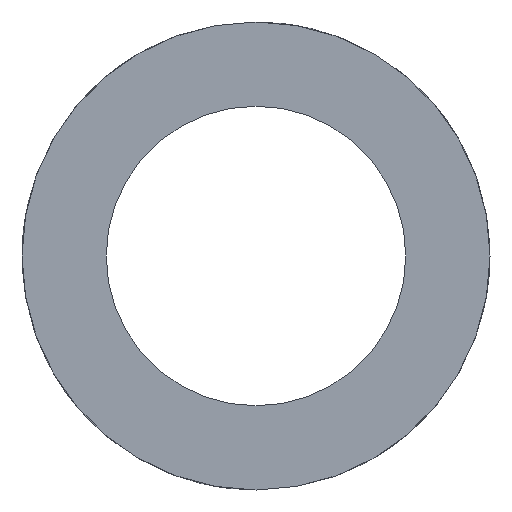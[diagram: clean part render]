
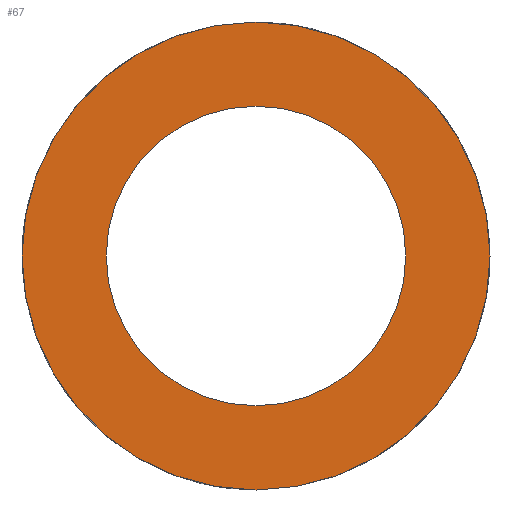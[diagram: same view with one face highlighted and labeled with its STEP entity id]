
A CAD part, front view. The second image highlights one B-rep face of the part: STEP entity #67.
In plain terms, the highlighted planar face has unit normal (0, -1, 0).
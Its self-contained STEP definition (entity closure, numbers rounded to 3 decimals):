
#11 = PLANE ( 'NONE',  #922 ) ;
#67 = ADVANCED_FACE ( 'NONE', ( #658, #670 ), #11, .F. ) ;
#106 = DIRECTION ( 'NONE',  ( 0., 1., 0. ) ) ;
#186 = DIRECTION ( 'NONE',  ( 0., 0., 1. ) ) ;
#200 = CARTESIAN_POINT ( 'NONE',  ( -42.452, 0., -46.697 ) ) ;
#223 = AXIS2_PLACEMENT_3D ( 'NONE', #2111, #2344, #2820 ) ;
#233 = ORIENTED_EDGE ( 'NONE', *, *, #2657, .F. ) ;
#264 = VERTEX_POINT ( 'NONE', #1507 ) ;
#380 = EDGE_CURVE ( 'NONE', #1188, #264, #875, .T. ) ;
#411 = EDGE_CURVE ( 'NONE', #2304, #668, #2278, .T. ) ;
#446 = AXIS2_PLACEMENT_3D ( 'NONE', #2033, #2441, #2672 ) ;
#456 = ORIENTED_EDGE ( 'NONE', *, *, #709, .T. ) ;
#468 = DIRECTION ( 'NONE',  ( 0., 1., 0. ) ) ;
#658 = FACE_BOUND ( 'NONE', #2166, .T. ) ;
#668 = VERTEX_POINT ( 'NONE', #2893 ) ;
#670 = FACE_OUTER_BOUND ( 'NONE', #890, .T. ) ;
#709 = EDGE_CURVE ( 'NONE', #264, #1188, #1753, .T. ) ;
#710 = CARTESIAN_POINT ( 'NONE',  ( -42.452, 0., -59.197 ) ) ;
#822 = ORIENTED_EDGE ( 'NONE', *, *, #380, .T. ) ;
#857 = DIRECTION ( 'NONE',  ( 0., 1., 0. ) ) ;
#875 = CIRCLE ( 'NONE', #1936, 8. ) ;
#890 = EDGE_LOOP ( 'NONE', ( #1635, #233 ) ) ;
#922 = AXIS2_PLACEMENT_3D ( 'NONE', #2778, #468, #2207 ) ;
#1188 = VERTEX_POINT ( 'NONE', #2445 ) ;
#1507 = CARTESIAN_POINT ( 'NONE',  ( -42.452, 0., -54.697 ) ) ;
#1635 = ORIENTED_EDGE ( 'NONE', *, *, #411, .F. ) ;
#1753 = CIRCLE ( 'NONE', #2126, 8. ) ;
#1936 = AXIS2_PLACEMENT_3D ( 'NONE', #200, #857, #186 ) ;
#2033 = CARTESIAN_POINT ( 'NONE',  ( -42.452, 0., -46.697 ) ) ;
#2111 = CARTESIAN_POINT ( 'NONE',  ( -42.452, 0., -46.697 ) ) ;
#2126 = AXIS2_PLACEMENT_3D ( 'NONE', #2160, #106, #2833 ) ;
#2160 = CARTESIAN_POINT ( 'NONE',  ( -42.452, 0., -46.697 ) ) ;
#2166 = EDGE_LOOP ( 'NONE', ( #822, #456 ) ) ;
#2207 = DIRECTION ( 'NONE',  ( 0., 0., 1. ) ) ;
#2278 = CIRCLE ( 'NONE', #446, 12.5 ) ;
#2304 = VERTEX_POINT ( 'NONE', #710 ) ;
#2344 = DIRECTION ( 'NONE',  ( 0., 1., 0. ) ) ;
#2441 = DIRECTION ( 'NONE',  ( 0., 1., 0. ) ) ;
#2445 = CARTESIAN_POINT ( 'NONE',  ( -42.452, 0., -38.697 ) ) ;
#2657 = EDGE_CURVE ( 'NONE', #668, #2304, #2831, .T. ) ;
#2672 = DIRECTION ( 'NONE',  ( 0., 0., 1. ) ) ;
#2778 = CARTESIAN_POINT ( 'NONE',  ( -42.452, 0., -46.697 ) ) ;
#2820 = DIRECTION ( 'NONE',  ( 0., 0., 1. ) ) ;
#2831 = CIRCLE ( 'NONE', #223, 12.5 ) ;
#2833 = DIRECTION ( 'NONE',  ( 0., 0., 1. ) ) ;
#2893 = CARTESIAN_POINT ( 'NONE',  ( -42.452, 0., -34.197 ) ) ;
